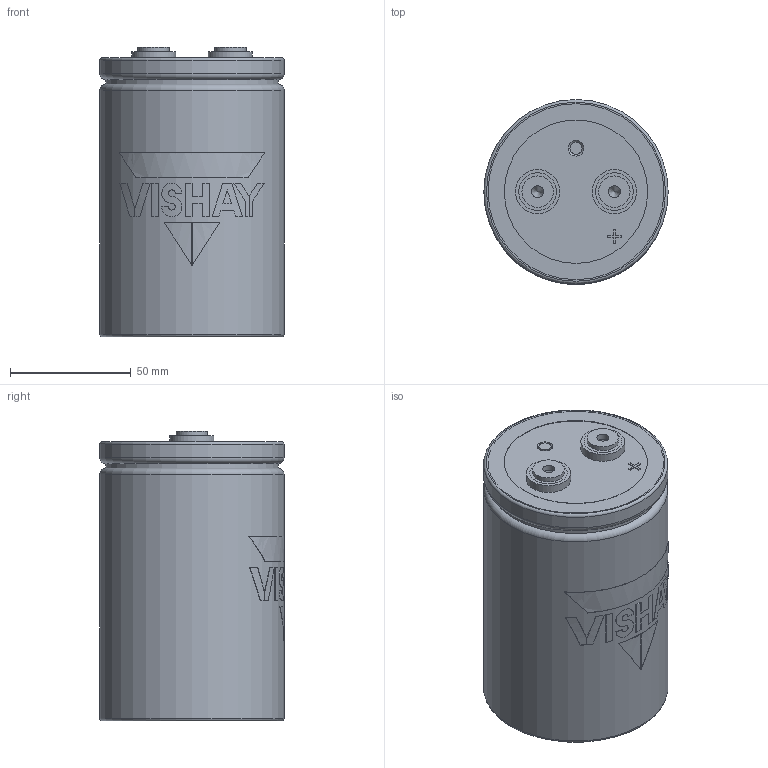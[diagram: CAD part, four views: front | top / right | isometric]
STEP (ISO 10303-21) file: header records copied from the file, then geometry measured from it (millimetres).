
FILE_DESCRIPTION(('FreeCAD Model'),'2;1');
FILE_NAME('C:/Users/tvandesteeg/Documents/Documents/FreeCAD/Stepfiles/ST capacitors/ST_LP_M6_76x114.step','2020-07-02T18:09:18',('Author'),(''), 'Open CASCADE STEP processor 7.3','FreeCAD','Unknown');
FILE_SCHEMA(('AUTOMOTIVE_DESIGN { 1 0 10303 214 1 1 1 1 }'));
Length unit declared in the file: millimetre
Products named in the file (7): VentBody; TerminalBody_(Mirror_#2); TerminalBody; Disc; LogoPrint; CanBody; BottomBody
Bounding box: 76.4 x 76.5 x 120.2 mm (x, y, z)
Volume: 526527.2 mm3; surface area: 63610.9 mm2
Topology: 17 solids, 17 shells, 149 faces, 313 edges, 206 vertices
Faces by surface type: plane 93, cylinder 48, torus 5, cone 3
Full cylindrical faces by diameter (mm): 5 x4, 13 x2, 15.65 x6, 18.3 x2, 59.422 x3, 71.4 x1, 72 x2, 76.4 x2
Entity records: 10653 total; most frequent: CARTESIAN_POINT 3357, DIRECTION 1204, ORIENTED_EDGE 622, PCURVE 622, DEFINITIONAL_REPRESENTATION 622, LINE 532, VECTOR 532, EDGE_CURVE 311
